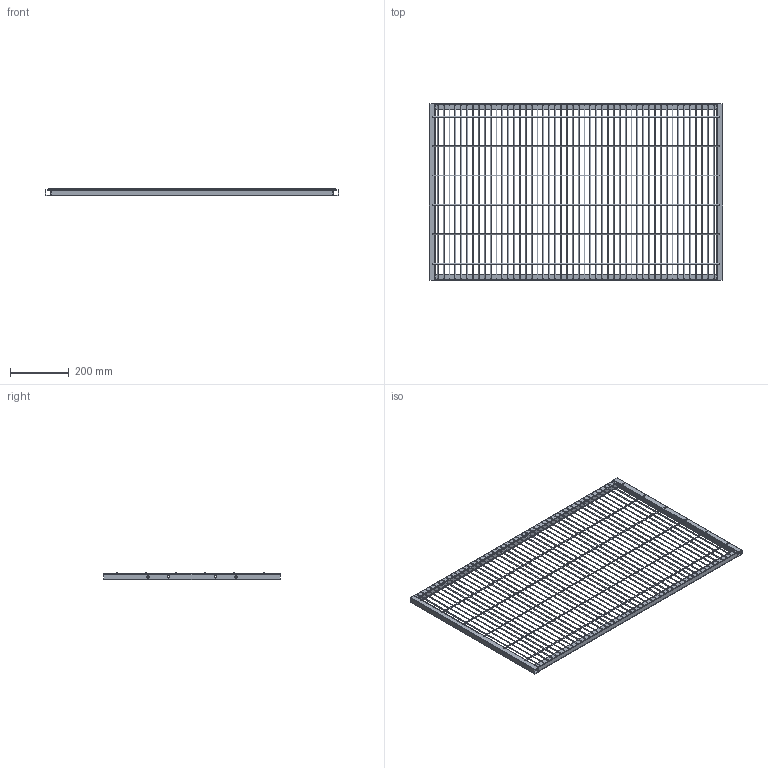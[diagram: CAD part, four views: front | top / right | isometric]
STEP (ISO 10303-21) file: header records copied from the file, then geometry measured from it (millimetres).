
FILE_DESCRIPTION (( 'STEP AP203' ), '1' );
FILE_NAME ('Framed Panel 1000 x 600.STEP', '2023-09-15T16:51:43', ( '' ), ( '' ), 'SwSTEP 2.0', 'SolidWorks 2023', '' );
FILE_SCHEMA (( 'CONFIG_CONTROL_DESIGN' ));
Length unit declared in the file: millimetre
Products named in the file (1): Framed Panel 1000 x 600
Bounding box: 1000 x 600 x 25.98 mm (x, y, z)
Volume: 576815.8 mm3; surface area: 771316.6 mm2
Topology: 58 solids, 58 shells, 320 faces, 612 edges, 408 vertices
Faces by surface type: cylinder 172, plane 148
Entity records: 8283 total; most frequent: DIRECTION 1598, CARTESIAN_POINT 1341, ORIENTED_EDGE 1224, AXIS2_PLACEMENT_3D 665, EDGE_CURVE 612, VERTEX_POINT 408, EDGE_LOOP 360, CIRCLE 344
